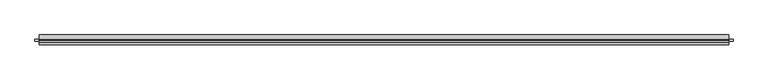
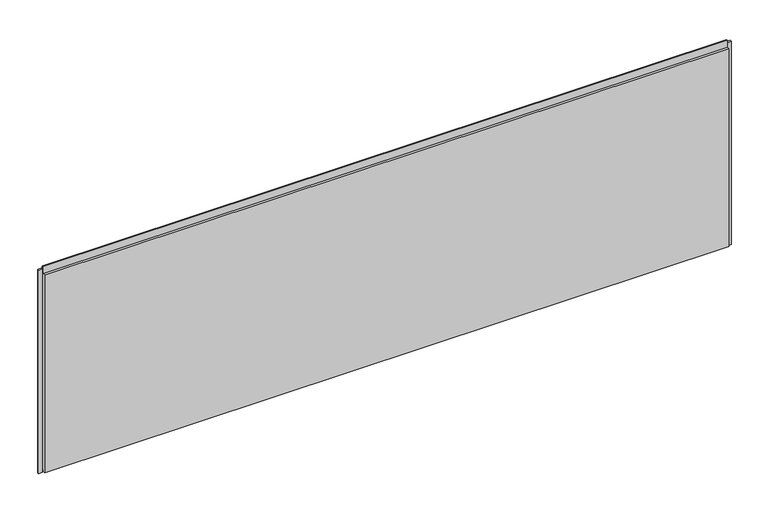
"""IFC4 building model written with IfcOpenShell, lengths in millimetres: plate geometry, Trimo_Qbiss Screen_Normal Panel-HORIZONTAL : HR - B."""

from ifc_helpers import new_model, si_unit, frame, origin, place, context, project, spatial, polyline, outline, extrude, source, transform, mapped, element, save


def plate_a03504c6(model_context):
    return source(origin(), model_context, "Body", "SweptSolid", [
        extrude(outline(polyline([(-1771.75, 76.5978162), (-1771.75, 67.8978162), (-1790.75, 67.8978162), (-1790.75, 76.5978162), (-1771.75, 76.5978162)])), frame((0.0, 0.0, -1.0), z_axis=(0.0, 0.0, 1.0), x_axis=(1.0, 0.0, 0.0)), (0.0, 0.0, 1.0), 1112.5),
        extrude(outline(polyline([(1771.75, 67.8978162), (1771.75, 76.5978162), (1790.75, 76.5978162), (1790.75, 67.8978162), (1771.75, 67.8978162)])), frame((0.0, 0.0, -1.0), z_axis=(0.0, 0.0, 1.0), x_axis=(1.0, 0.0, 0.0)), (0.0, 0.0, 1.0), 1112.5),
        extrude(outline(polyline([(1768.75, 76.0), (1768.75, 71.0), (-1768.75, 71.0), (-1768.75, 76.0), (1768.75, 76.0)])), frame((0.0, 0.0, 1090.5), z_axis=(0.0, 0.0, 1.0), x_axis=(1.0, 0.0, 0.0)), (0.0, 0.0, 1.0), 21.0),
        extrude(outline(polyline([(71.0, 1089.5), (100.0, 1089.5), (100.0, 0.0), (72.0, 0.0), (72.0, 15.5), (62.0, 15.5), (62.0, 7.0), (50.0, 7.0), (50.0, 1089.5), (63.0, 1089.5), (63.0, 1127.0), (71.0, 1127.0), (71.0, 1089.5)])), frame((-1768.75, 0.0, 0.0), z_axis=(1.0, 0.0, 0.0), x_axis=(0.0, 1.0, 0.0)), (0.0, 0.0, 1.0), 3537.5),
    ])


if __name__ == "__main__":
    model = new_model("IFC4")
    model_context = context("Model", 3, world=origin())
    ifc_project = project(units=[si_unit("LENGTHUNIT", "METRE", prefix="MILLI")], contexts=[model_context])
    site = spatial("IfcSite", under=ifc_project)
    building = spatial("IfcBuilding", under=site)
    placement = place(None, origin())
    plate_shape = plate_a03504c6(model_context)
    element("IfcPlate", 1, ObjectType="Trimo_Qbiss Screen_Normal Panel-HORIZONTAL : HR - B", at=placement, inside=building, context=model_context, shape_type="MappedRepresentation", body=[
        mapped(plate_shape, transform((0.0, 0.0, 0.0), x_axis=(1.0, 0.0, 0.0), y_axis=(0.0, 1.0, 0.0), z_axis=(0.0, 0.0, 1.0))),
    ])
    save(model, "model.ifc")
